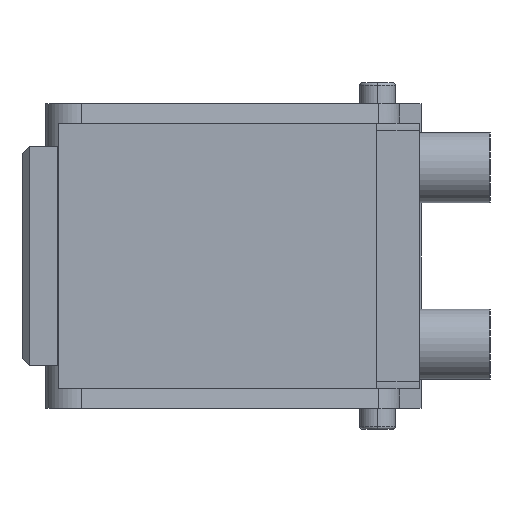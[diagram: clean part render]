
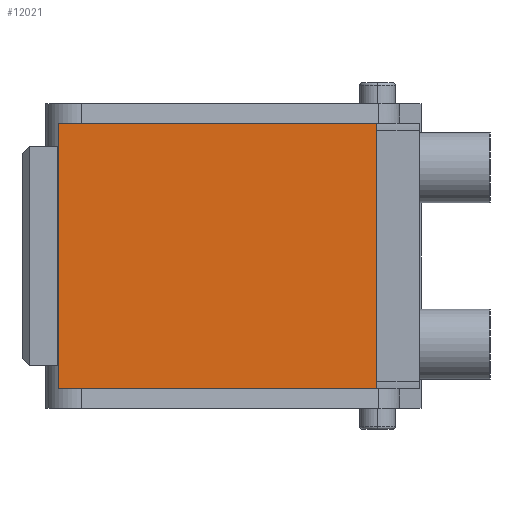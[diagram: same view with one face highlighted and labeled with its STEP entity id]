
A CAD part, left-side view. The second image highlights one B-rep face of the part: STEP entity #12021.
In plain terms, the highlighted planar face has unit normal (-1, 0, 0).
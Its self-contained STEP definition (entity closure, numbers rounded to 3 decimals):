
#339 = CARTESIAN_POINT ( 'NONE',  ( -238.437, 45.817, 37.5 ) ) ;
#738 = CARTESIAN_POINT ( 'NONE',  ( -238.437, 65.817, -37.5 ) ) ;
#1311 = VERTEX_POINT ( 'NONE', #2044 ) ;
#2044 = CARTESIAN_POINT ( 'NONE',  ( -238.437, 65.817, 37.5 ) ) ;
#2251 = CARTESIAN_POINT ( 'NONE',  ( -238.437, -24.183, -37.5 ) ) ;
#2293 = DIRECTION ( 'NONE',  ( 0., 0., 1. ) ) ;
#2300 = VECTOR ( 'NONE', #11888, 1000. ) ;
#3084 = EDGE_CURVE ( 'NONE', #1311, #4837, #10211, .T. ) ;
#3466 = VECTOR ( 'NONE', #8000, 1000. ) ;
#3744 = CARTESIAN_POINT ( 'NONE',  ( -238.437, -24.183, 37.5 ) ) ;
#3912 = ORIENTED_EDGE ( 'NONE', *, *, #3084, .T. ) ;
#4031 = EDGE_CURVE ( 'NONE', #7898, #6578, #5566, .T. ) ;
#4122 = DIRECTION ( 'NONE',  ( -1., 0., 0. ) ) ;
#4582 = EDGE_CURVE ( 'NONE', #4837, #7898, #6831, .T. ) ;
#4837 = VERTEX_POINT ( 'NONE', #11928 ) ;
#4980 = DIRECTION ( 'NONE',  ( 0., 0., -1. ) ) ;
#5290 = CARTESIAN_POINT ( 'NONE',  ( -238.437, -24.183, -37.5 ) ) ;
#5566 = LINE ( 'NONE', #5290, #11192 ) ;
#5890 = ORIENTED_EDGE ( 'NONE', *, *, #4582, .T. ) ;
#6194 = CARTESIAN_POINT ( 'NONE',  ( -238.437, 45.817, -37.5 ) ) ;
#6578 = VERTEX_POINT ( 'NONE', #3744 ) ;
#6831 = LINE ( 'NONE', #6890, #3466 ) ;
#6890 = CARTESIAN_POINT ( 'NONE',  ( -238.437, -325.532, -37.5 ) ) ;
#7844 = VECTOR ( 'NONE', #4980, 1000. ) ;
#7898 = VERTEX_POINT ( 'NONE', #2251 ) ;
#8000 = DIRECTION ( 'NONE',  ( 0., -1., 0. ) ) ;
#8493 = ORIENTED_EDGE ( 'NONE', *, *, #9312, .T. ) ;
#9229 = DIRECTION ( 'NONE',  ( 0., 1., 0. ) ) ;
#9300 = FACE_OUTER_BOUND ( 'NONE', #10260, .T. ) ;
#9312 = EDGE_CURVE ( 'NONE', #6578, #1311, #10780, .T. ) ;
#9438 = ORIENTED_EDGE ( 'NONE', *, *, #4031, .T. ) ;
#10211 = LINE ( 'NONE', #738, #7844 ) ;
#10260 = EDGE_LOOP ( 'NONE', ( #5890, #9438, #8493, #3912 ) ) ;
#10780 = LINE ( 'NONE', #339, #2300 ) ;
#11192 = VECTOR ( 'NONE', #2293, 1000. ) ;
#11888 = DIRECTION ( 'NONE',  ( 0., 1., 0. ) ) ;
#11928 = CARTESIAN_POINT ( 'NONE',  ( -238.437, 65.817, -37.5 ) ) ;
#12021 = ADVANCED_FACE ( 'NONE', ( #9300 ), #13596, .T. ) ;
#13314 = AXIS2_PLACEMENT_3D ( 'NONE', #6194, #4122, #9229 ) ;
#13596 = PLANE ( 'NONE',  #13314 ) ;
